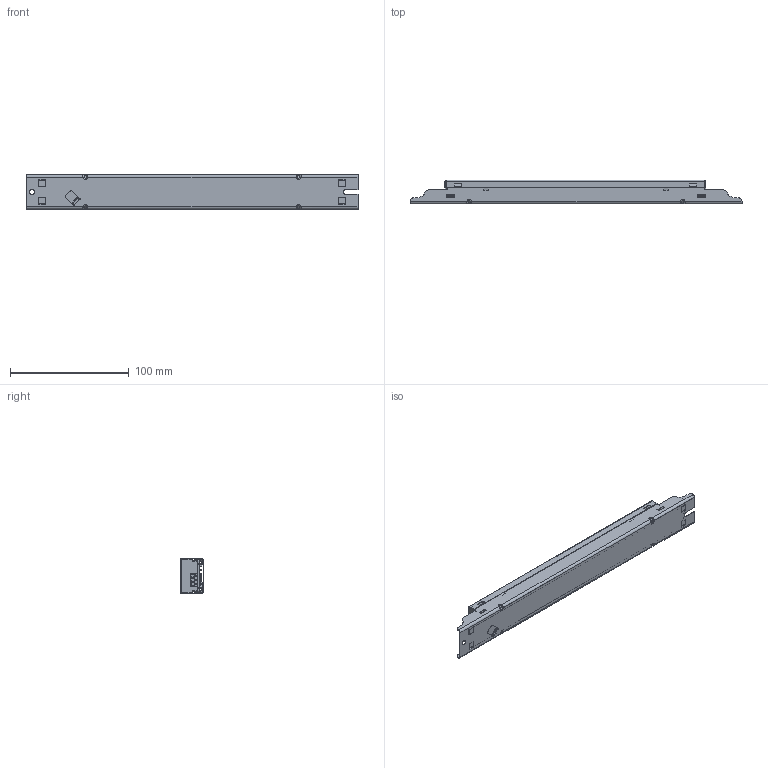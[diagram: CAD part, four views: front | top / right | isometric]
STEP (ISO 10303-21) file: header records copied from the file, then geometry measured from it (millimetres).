
FILE_DESCRIPTION(/* description */ ('Unknown'),/* implementation_level */ '2;1');
FILE_NAME(/* name */ 'Non-SELV LEDdriver 2019-04-26',/* time_stamp */ '2019-04-26T12:13:13+02:00',/* author */ ('Unknown'),/* organization */ ('Unknown'),/* preprocessor_version */ 'ST-DEVELOPER v16.7',/* originating_system */ 'DEX',/* authorisation */ $);
FILE_SCHEMA (('AUTOMOTIVE_DESIGN {1 0 10303 214 3 1 1}'));
Length unit declared in the file: millimetre
Products named in the file (1): Non-SELV LEDdriver 2019-04-26
Bounding box: 280 x 19.98 x 30 mm (x, y, z)
Volume: 61231.4 mm3; surface area: 101546.8 mm2
Topology: 3 solids, 3 shells, 1029 faces, 2866 edges, 1854 vertices
Faces by surface type: plane 656, cylinder 332, bspline 32, cone 9
Full cylindrical faces by diameter (mm): 0.6 x2, 0.8 x1, 0.9 x10, 1 x11, 1.1 x38, 1.3 x4, 1.7 x4, 3 x9, 4.2 x1, 6.197 x1, 8.452 x1, 13 x1
Entity records: 41066 total; most frequent: CARTESIAN_POINT 7555, ORIENTED_EDGE 5492, DIRECTION 5305, EDGE_CURVE 2746, LINE 1883, VECTOR 1883, VERTEX_POINT 1830, AXIS2_PLACEMENT_3D 1711
